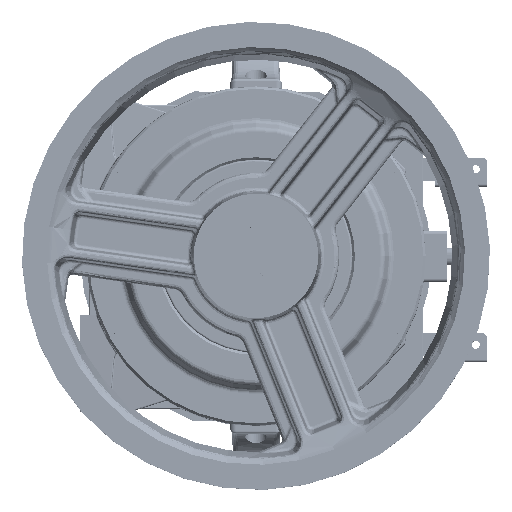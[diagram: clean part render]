
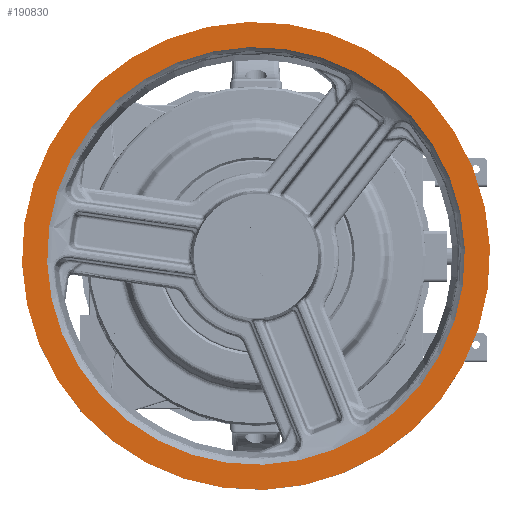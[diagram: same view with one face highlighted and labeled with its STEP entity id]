
A CAD part, top view. The second image highlights one B-rep face of the part: STEP entity #190830.
In plain terms, the highlighted planar face has unit normal (0, 0, 1).
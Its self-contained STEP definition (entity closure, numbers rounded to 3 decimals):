
#4964 = CIRCLE ( 'NONE', #131905, 200. ) ;
#7742 = CIRCLE ( 'NONE', #121998, 178.511 ) ;
#8148 = CARTESIAN_POINT ( 'NONE',  ( -50.22, 37.942, 255.224 ) ) ;
#10357 = CIRCLE ( 'NONE', #133992, 178.511 ) ;
#12256 = EDGE_CURVE ( 'NONE', #128172, #44214, #10357, .T. ) ;
#13515 = EDGE_CURVE ( 'NONE', #116604, #169533, #38106, .T. ) ;
#33460 = EDGE_CURVE ( 'NONE', #169533, #116604, #4964, .T. ) ;
#38050 = ORIENTED_EDGE ( 'NONE', *, *, #118002, .T. ) ;
#38106 = CIRCLE ( 'NONE', #88854, 200. ) ;
#38982 = DIRECTION ( 'NONE',  ( 0.99, -0.139, 0. ) ) ;
#39963 = CARTESIAN_POINT ( 'NONE',  ( -50.22, 37.942, 255.224 ) ) ;
#44214 = VERTEX_POINT ( 'NONE', #148497 ) ;
#48552 = DIRECTION ( 'NONE',  ( 0., 0., -1. ) ) ;
#53897 = FACE_OUTER_BOUND ( 'NONE', #128739, .T. ) ;
#80174 = EDGE_LOOP ( 'NONE', ( #38050, #116300 ) ) ;
#85077 = ORIENTED_EDGE ( 'NONE', *, *, #13515, .T. ) ;
#88854 = AXIS2_PLACEMENT_3D ( 'NONE', #95020, #110905, #186409 ) ;
#95020 = CARTESIAN_POINT ( 'NONE',  ( -50.22, 37.942, 255.224 ) ) ;
#107411 = DIRECTION ( 'NONE',  ( 0., 0., -1. ) ) ;
#107826 = CARTESIAN_POINT ( 'NONE',  ( 126.551, 13.077, 255.224 ) ) ;
#110905 = DIRECTION ( 'NONE',  ( 0., 0., 1. ) ) ;
#112507 = DIRECTION ( 'NONE',  ( 0., 0., 1. ) ) ;
#116300 = ORIENTED_EDGE ( 'NONE', *, *, #12256, .T. ) ;
#116604 = VERTEX_POINT ( 'NONE', #145450 ) ;
#118002 = EDGE_CURVE ( 'NONE', #44214, #128172, #7742, .T. ) ;
#121998 = AXIS2_PLACEMENT_3D ( 'NONE', #182910, #107411, #154102 ) ;
#124063 = CARTESIAN_POINT ( 'NONE',  ( -50.22, 37.942, 255.224 ) ) ;
#125045 = DIRECTION ( 'NONE',  ( 0.99, -0.139, 0. ) ) ;
#128172 = VERTEX_POINT ( 'NONE', #107826 ) ;
#128739 = EDGE_LOOP ( 'NONE', ( #176832, #85077 ) ) ;
#130314 = DIRECTION ( 'NONE',  ( 0., 0., 1. ) ) ;
#131905 = AXIS2_PLACEMENT_3D ( 'NONE', #8148, #130314, #144213 ) ;
#133992 = AXIS2_PLACEMENT_3D ( 'NONE', #124063, #48552, #125045 ) ;
#136671 = AXIS2_PLACEMENT_3D ( 'NONE', #39963, #112507, #38982 ) ;
#144213 = DIRECTION ( 'NONE',  ( 0.99, -0.139, 0. ) ) ;
#144281 = PLANE ( 'NONE',  #136671 ) ;
#145450 = CARTESIAN_POINT ( 'NONE',  ( 147.831, 10.084, 255.224 ) ) ;
#148497 = CARTESIAN_POINT ( 'NONE',  ( -226.99, 62.806, 255.224 ) ) ;
#154102 = DIRECTION ( 'NONE',  ( 0.99, -0.139, 0. ) ) ;
#157898 = CARTESIAN_POINT ( 'NONE',  ( -248.27, 65.799, 255.224 ) ) ;
#169533 = VERTEX_POINT ( 'NONE', #157898 ) ;
#175105 = FACE_BOUND ( 'NONE', #80174, .T. ) ;
#176832 = ORIENTED_EDGE ( 'NONE', *, *, #33460, .T. ) ;
#182910 = CARTESIAN_POINT ( 'NONE',  ( -50.22, 37.942, 255.224 ) ) ;
#186409 = DIRECTION ( 'NONE',  ( 0.99, -0.139, 0. ) ) ;
#190830 = ADVANCED_FACE ( 'NONE', ( #53897, #175105 ), #144281, .T. ) ;
